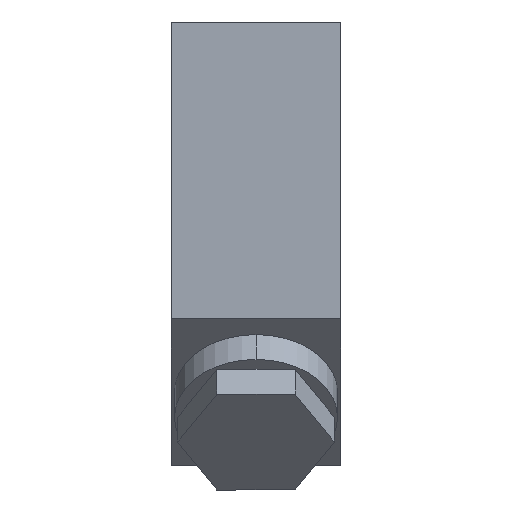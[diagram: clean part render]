
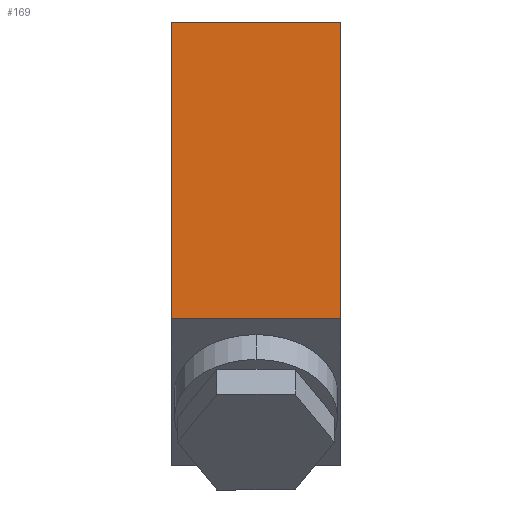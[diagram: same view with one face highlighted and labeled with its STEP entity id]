
A CAD part, front view. The second image highlights one B-rep face of the part: STEP entity #169.
In plain terms, the highlighted planar face has unit normal (0, -1, 0).
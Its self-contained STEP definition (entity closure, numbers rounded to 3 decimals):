
#37 = ORIENTED_EDGE ( 'NONE', *, *, #183, .T. ) ;
#41 = EDGE_CURVE ( 'NONE', #229, #56, #1160, .T. ) ;
#56 = VERTEX_POINT ( 'NONE', #1199 ) ;
#81 = EDGE_CURVE ( 'NONE', #181, #56, #1223, .T. ) ;
#167 = ORIENTED_EDGE ( 'NONE', *, *, #41, .T. ) ;
#168 = EDGE_CURVE ( 'NONE', #180, #229, #1406, .T. ) ;
#169 = ADVANCED_FACE ( 'NONE', ( #1402 ), #1401, .F. ) ;
#171 = ORIENTED_EDGE ( 'NONE', *, *, #168, .T. ) ;
#172 = EDGE_LOOP ( 'NONE', ( #171, #167, #188, #37 ) ) ;
#180 = VERTEX_POINT ( 'NONE', #1382 ) ;
#181 = VERTEX_POINT ( 'NONE', #1381 ) ;
#183 = EDGE_CURVE ( 'NONE', #181, #180, #1380, .T. ) ;
#188 = ORIENTED_EDGE ( 'NONE', *, *, #81, .F. ) ;
#229 = VERTEX_POINT ( 'NONE', #1496 ) ;
#1157 = DIRECTION ( 'NONE',  ( 1., 0., 0. ) ) ;
#1158 = VECTOR ( 'NONE', #1157, 1000. ) ;
#1159 = CARTESIAN_POINT ( 'NONE',  ( 26., -68., -45.5 ) ) ;
#1160 = LINE ( 'NONE', #1159, #1158 ) ;
#1199 = CARTESIAN_POINT ( 'NONE',  ( 26., -68., -45.5 ) ) ;
#1220 = DIRECTION ( 'NONE',  ( 0., 0., -1. ) ) ;
#1221 = VECTOR ( 'NONE', #1220, 1000. ) ;
#1222 = CARTESIAN_POINT ( 'NONE',  ( 26., -68., 0. ) ) ;
#1223 = LINE ( 'NONE', #1222, #1221 ) ;
#1380 = LINE ( 'NONE', #1443, #1442 ) ;
#1381 = CARTESIAN_POINT ( 'NONE',  ( 26., -68., 0. ) ) ;
#1382 = CARTESIAN_POINT ( 'NONE',  ( 0., -68., 0. ) ) ;
#1397 = DIRECTION ( 'NONE',  ( 0., 0., 1. ) ) ;
#1398 = DIRECTION ( 'NONE',  ( 0., 1., 0. ) ) ;
#1399 = CARTESIAN_POINT ( 'NONE',  ( 26., -68., 0. ) ) ;
#1400 = AXIS2_PLACEMENT_3D ( 'NONE', #1399, #1398, #1397 ) ;
#1401 = PLANE ( 'NONE',  #1400 ) ;
#1402 = FACE_OUTER_BOUND ( 'NONE', #172, .T. ) ;
#1403 = DIRECTION ( 'NONE',  ( 0., 0., -1. ) ) ;
#1404 = VECTOR ( 'NONE', #1403, 1000. ) ;
#1405 = CARTESIAN_POINT ( 'NONE',  ( 0., -68., 0. ) ) ;
#1406 = LINE ( 'NONE', #1405, #1404 ) ;
#1441 = DIRECTION ( 'NONE',  ( -1., 0., 0. ) ) ;
#1442 = VECTOR ( 'NONE', #1441, 1000. ) ;
#1443 = CARTESIAN_POINT ( 'NONE',  ( 26., -68., 0. ) ) ;
#1496 = CARTESIAN_POINT ( 'NONE',  ( 0., -68., -45.5 ) ) ;
